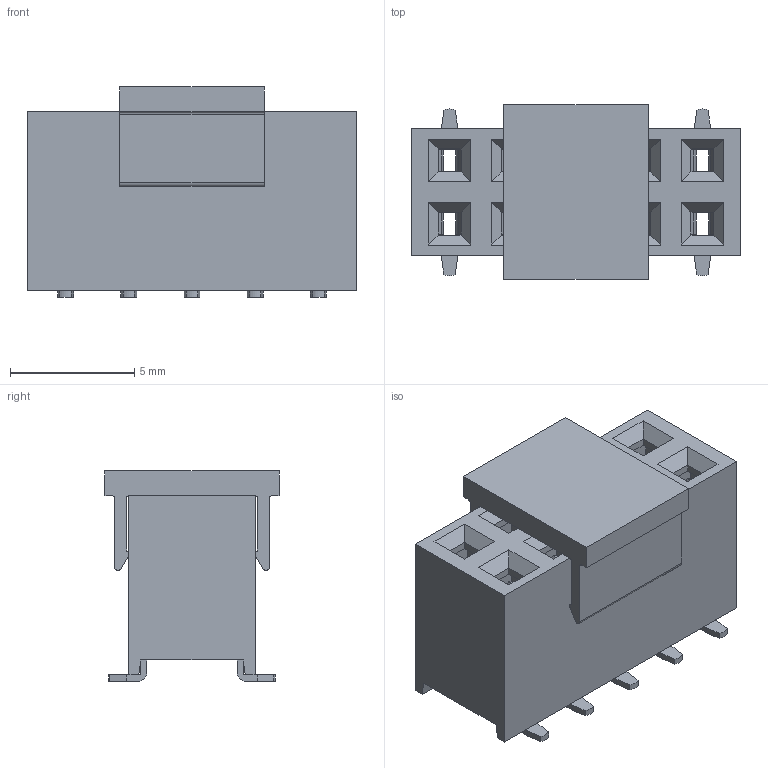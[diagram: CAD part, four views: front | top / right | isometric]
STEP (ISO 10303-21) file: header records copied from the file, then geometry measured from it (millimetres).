
FILE_DESCRIPTION(('STEP AP242'),'1');
FILE_NAME('61031021821.stp','2022-03-16T04:10:46',('TraceParts'),('TraceParts S.A.'),'Spatial InterOp 3D',' ',' ');
FILE_SCHEMA(('AP242_MANAGED_MODEL_BASED_3D_ENGINEERING_MIM_LF {1 0 10303 442 1 1 4}'));
Length unit declared in the file: millimetre
Products named in the file (1): 61031021821_1
Bounding box: 13.2 x 7 x 8.45 mm (x, y, z)
Volume: 370.3 mm3; surface area: 1482.6 mm2
Topology: 12 solids, 12 shells, 964 faces, 2640 edges, 1700 vertices
Faces by surface type: plane 504, cylinder 440, bspline 20
Entity records: 31064 total; most frequent: CARTESIAN_POINT 5656, DIRECTION 5352, ORIENTED_EDGE 5280, EDGE_CURVE 2640, AXIS2_PLACEMENT_3D 1796, LINE 1760, VECTOR 1760, VERTEX_POINT 1700
